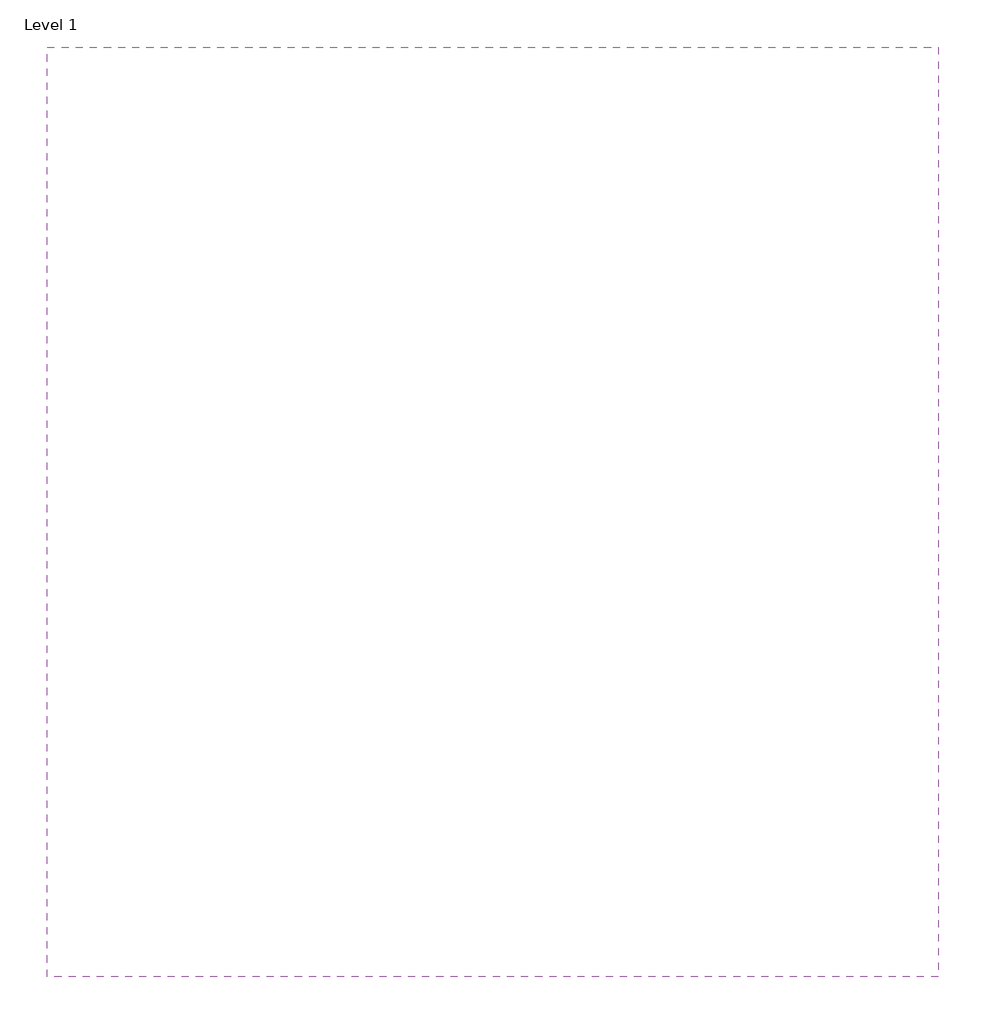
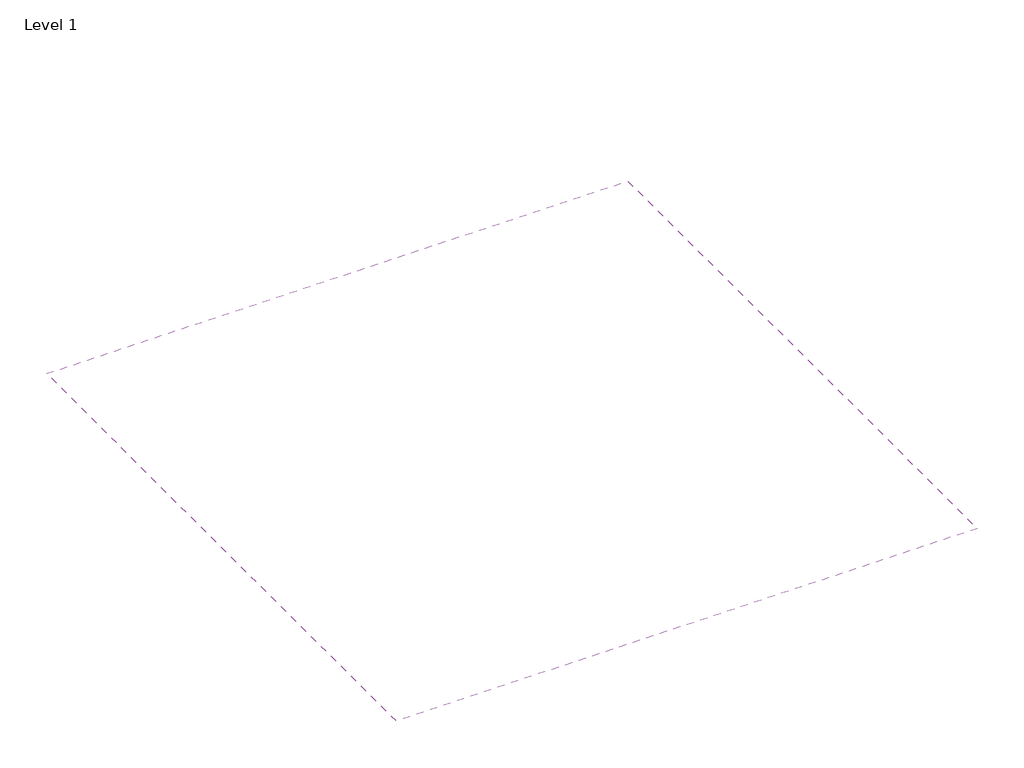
# One storey: 1 covering.
"""IFC4 building model written with IfcOpenShell, lengths in millimetres."""

from ifc_helpers import new_model, si_unit, frame, origin, place, context, project, spatial, polyline, outline, extrude, element, save

model = new_model("IFC4")

# Units and contexts
model_context = context("Model", 3, world=origin())
ifc_project = project(units=[si_unit("LENGTHUNIT", "METRE", prefix="MILLI")], contexts=[model_context])

# Site, building, storey
site = spatial("IfcSite", under=ifc_project)
building = spatial("IfcBuilding", under=site)
storey = spatial("IfcBuildingStorey", under=building, Name="Level 1", Elevation=0.0)

# Covering
placement = place(None, origin())
element("IfcCovering", 1, ObjectType="2 x Placo PPM 15", at=placement, inside=storey, context=model_context, shape_type="SweptSolid", body=[
    extrude(outline(polyline([(-5115.2715037, -29979.3973419), (-6055.2715037, -29979.3973419), (-6055.2715037, -28999.3973419), (-5115.2715037, -28999.3973419), (-5115.2715037, -29979.3973419)])), frame((0.0, 0.0, 2600.0), z_axis=(0.0, 0.0, 1.0), x_axis=(1.0, 0.0, 0.0)), (0.0, 0.0, 1.0), 230.0),
])

save(model, "model.ifc")
